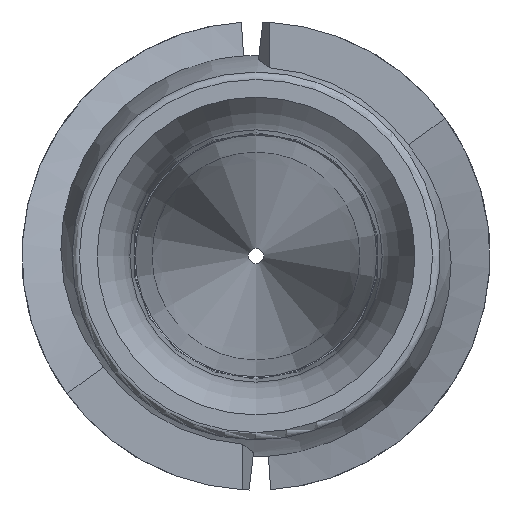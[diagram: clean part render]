
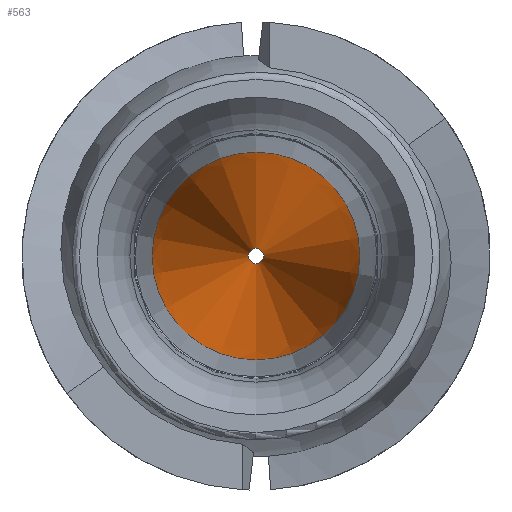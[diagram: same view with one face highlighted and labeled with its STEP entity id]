
A CAD part, front view. The second image highlights one B-rep face of the part: STEP entity #563.
In plain terms, the highlighted conical face has half-angle 5.293 degrees and reference radius 1.727 mm.
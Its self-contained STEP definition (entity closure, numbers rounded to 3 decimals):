
#5 = CARTESIAN_POINT ( 'NONE',  ( 0., 31.369, 0.127 ) ) ;
#35 = CONICAL_SURFACE ( 'NONE', #257, 1.727, 0.092 ) ;
#68 = AXIS2_PLACEMENT_3D ( 'NONE', #519, #528, #84 ) ;
#84 = DIRECTION ( 'NONE',  ( 0., 0., 1. ) ) ;
#109 = DIRECTION ( 'NONE',  ( 0., 0., -1. ) ) ;
#139 = CARTESIAN_POINT ( 'NONE',  ( 0., 14.097, 1.727 ) ) ;
#228 = CIRCLE ( 'NONE', #455, 1.727 ) ;
#257 = AXIS2_PLACEMENT_3D ( 'NONE', #1449, #264, #109 ) ;
#264 = DIRECTION ( 'NONE',  ( 0., -1., 0. ) ) ;
#278 = FACE_BOUND ( 'NONE', #491, .T. ) ;
#341 = CIRCLE ( 'NONE', #68, 0.127 ) ;
#414 = VERTEX_POINT ( 'NONE', #5 ) ;
#444 = DIRECTION ( 'NONE',  ( 0., 0., 1. ) ) ;
#455 = AXIS2_PLACEMENT_3D ( 'NONE', #463, #1510, #444 ) ;
#463 = CARTESIAN_POINT ( 'NONE',  ( 0., 14.097, 0. ) ) ;
#491 = EDGE_LOOP ( 'NONE', ( #984 ) ) ;
#519 = CARTESIAN_POINT ( 'NONE',  ( 0., 31.369, 0. ) ) ;
#528 = DIRECTION ( 'NONE',  ( 0., 1., 0. ) ) ;
#563 = ADVANCED_FACE ( 'NONE', ( #278, #654 ), #35, .F. ) ;
#654 = FACE_OUTER_BOUND ( 'NONE', #1549, .T. ) ;
#958 = EDGE_CURVE ( 'NONE', #1192, #1192, #228, .T. ) ;
#984 = ORIENTED_EDGE ( 'NONE', *, *, #1265, .T. ) ;
#1192 = VERTEX_POINT ( 'NONE', #139 ) ;
#1265 = EDGE_CURVE ( 'NONE', #414, #414, #341, .T. ) ;
#1426 = ORIENTED_EDGE ( 'NONE', *, *, #958, .F. ) ;
#1449 = CARTESIAN_POINT ( 'NONE',  ( 0., 14.097, 0. ) ) ;
#1510 = DIRECTION ( 'NONE',  ( 0., 1., 0. ) ) ;
#1549 = EDGE_LOOP ( 'NONE', ( #1426 ) ) ;
